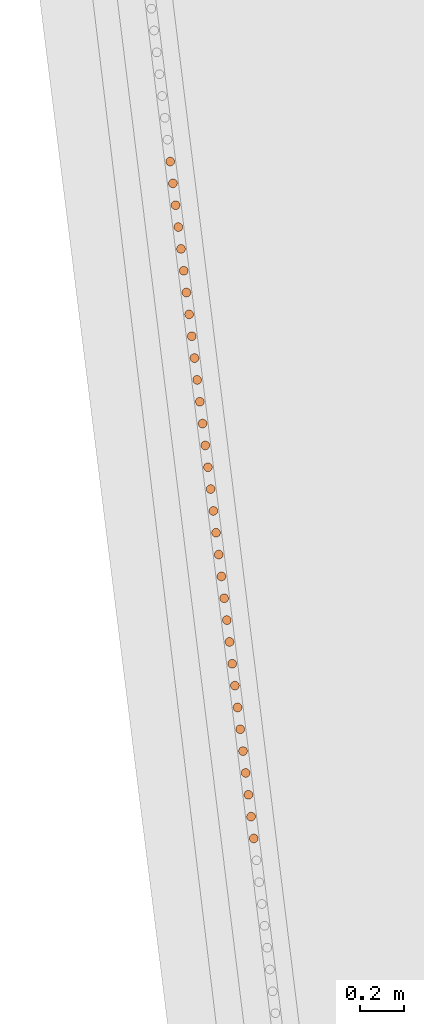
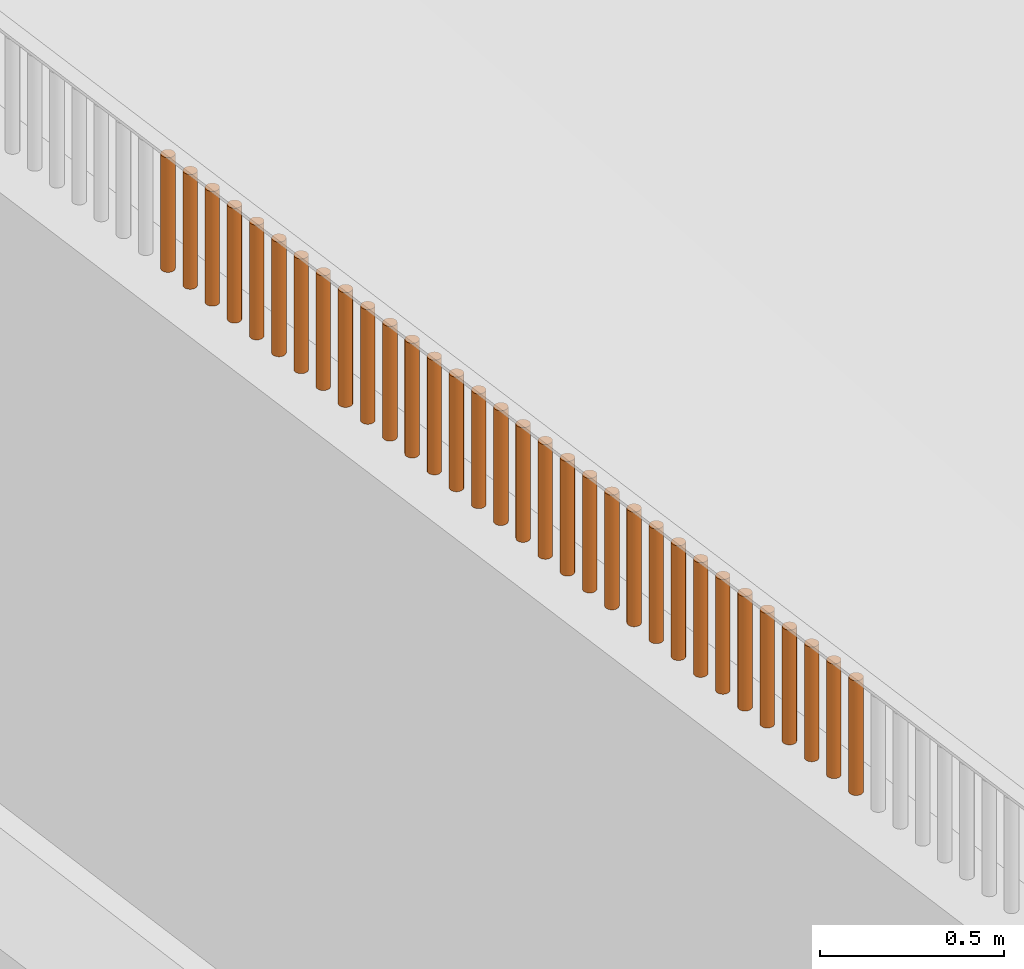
# One storey, part 230 of 1809: 32 proxies, 1 element without a shape of its own.
"""IFC2X3 building model written with IfcOpenShell, lengths in millimetres."""

from ifc_helpers import new_model, entity, si_unit, converted_unit, derived_unit, money_unit, direction, frame, origin_with_axes, place, context, subcontext, project, spatial, faceted_brep, source, transform, mapped, material, type_object, element, aggregate, save


model = new_model("IFC2X3")

# Units and contexts
model_context = context("Model", 3, precision=0.01, world=origin_with_axes(), true_north=direction((0.0, 1.0)))
body_context = subcontext(model_context, "Body", "Model", "MODEL_VIEW")
ifc_project = project(units=[si_unit("LENGTHUNIT", "METRE", prefix="MILLI"), si_unit("AREAUNIT", "SQUARE_METRE"), si_unit("VOLUMEUNIT", "CUBIC_METRE"), converted_unit("PLANEANGLEUNIT", "DEGREE", entity("IfcPlaneAngleMeasure", 0.0174532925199), si_unit("PLANEANGLEUNIT", "RADIAN"), dimensions=[0, 0, 0, 0, 0, 0, 0]), si_unit("SOLIDANGLEUNIT", "STERADIAN"), money_unit("EUR"), converted_unit("TIMEUNIT", "Year", entity("IfcTimeMeasure", 31556926.0), si_unit("TIMEUNIT", "SECOND"), dimensions=[0, 0, 1, 0, 0, 0, 0]), si_unit("MASSUNIT", "GRAM", prefix="KILO"), si_unit("THERMODYNAMICTEMPERATUREUNIT", "DEGREE_CELSIUS"), si_unit("LUMINOUSINTENSITYUNIT", "LUMEN"), si_unit("ENERGYUNIT", "JOULE", prefix="MEGA"), derived_unit("THERMALCONDUCTANCEUNIT", [(si_unit("POWERUNIT", "WATT"), 1), (si_unit("LENGTHUNIT", "METRE"), -1), (si_unit("THERMODYNAMICTEMPERATUREUNIT", "KELVIN"), -1)]), derived_unit("SPECIFICHEATCAPACITYUNIT", [(si_unit("ENERGYUNIT", "JOULE"), 1), (si_unit("MASSUNIT", "GRAM", prefix="KILO"), -1), (si_unit("THERMODYNAMICTEMPERATUREUNIT", "KELVIN"), -1)]), derived_unit("MASSDENSITYUNIT", [(si_unit("MASSUNIT", "GRAM", prefix="KILO"), 1), (si_unit("VOLUMEUNIT", "CUBIC_METRE"), -1)])], contexts=[model_context])

# Site, building, storey
site_placement = place(None, origin_with_axes())
site = spatial("IfcSite", under=ifc_project, at=site_placement, Name="Politse- ja Piirivalveameti ning Päästeameti ühishoone", CompositionType="ELEMENT")
building_placement = place(site_placement, origin_with_axes())
building = spatial("IfcBuilding", under=site, at=building_placement, Name="Politse- ja Piirivalveameti ning Päästeameti ühishoone", CompositionType="ELEMENT")
storey_placement = place(building_placement, origin_with_axes())
storey = spatial("IfcBuildingStorey", under=building, at=storey_placement, Name="Esimene korrus", CompositionType="ELEMENT", Elevation=0.0)

# Proxies
building_element_proxy_type_1 = type_object("IfcBuildingElementProxyType", Name="Railing Type", PredefinedType="NOTDEFINED")
proxy_1_placement = place(storey_placement, frame((-18956.5522504, -53688.4757966, 2100.0), z_axis=(0.0, 0.0, 1.0), x_axis=(1.0, 0.0, 0.0)))
proxy_1 = element("IfcBuildingElementProxy", 1, at=proxy_1_placement, inside=storey, type_object=building_element_proxy_type_1, Name="PIIRDEAED")
ifc_material = material(Name="ET-06_Teras - Konstruktsioon")
building_element_proxy_type_2 = type_object("IfcBuildingElementProxyType", Name="IfcBuildingElementProxy", PredefinedType="NOTDEFINED")
shared_shape_1 = source(origin_with_axes(), body_context, "Body", "Brep", [
    faceted_brep([(0.0, -20.0, 0.0), (3.47296355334, -19.6961550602, 0.0), (3.47296355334, -19.6961550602, 380.000012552), (0.0, -20.0, 380.000012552), (-3.47296355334, -19.6961550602, 0.0), (-6.84040286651, -18.7938524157, 0.0), (-10.0, -17.3205080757, 0.0), (-12.8557521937, -15.3208888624, 0.0), (-15.3208888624, -12.8557521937, 0.0), (-17.3205080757, -10.0, 0.0), (-18.7938524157, -6.84040286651, 0.0), (-19.6961550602, -3.47296355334, 0.0), (-20.0, 0.0, 0.0), (-19.6961550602, 3.47296355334, 0.0), (-18.7938524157, 6.84040286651, 0.0), (-17.3205080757, 10.0, 0.0), (-15.3208888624, 12.8557521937, 0.0), (-12.8557521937, 15.3208888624, 0.0), (-10.0, 17.3205080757, 0.0), (-6.84040286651, 18.7938524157, 0.0), (-3.47296355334, 19.6961550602, 0.0), (0.0, 20.0, 0.0), (3.47296355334, 19.6961550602, 0.0), (6.84040286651, 18.7938524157, 0.0), (10.0, 17.3205080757, 0.0), (12.8557521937, 15.3208888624, 0.0), (15.3208888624, 12.8557521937, 0.0), (17.3205080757, 10.0, 0.0), (18.7938524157, 6.84040286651, 0.0), (19.6961550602, 3.47296355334, 0.0), (20.0, 0.0, 0.0), (19.6961550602, -3.47296355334, 0.0), (18.7938524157, -6.84040286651, 0.0), (17.3205080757, -10.0, 0.0), (15.3208888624, -12.8557521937, 0.0), (12.8557521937, -15.3208888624, 0.0), (10.0, -17.3205080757, 0.0), (6.84040286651, -18.7938524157, 0.0), (6.84040286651, -18.7938524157, 380.000012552), (10.0, -17.3205080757, 380.000012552), (12.8557521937, -15.3208888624, 380.000012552), (15.3208888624, -12.8557521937, 380.000012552), (17.3205080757, -10.0, 380.000012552), (18.7938524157, -6.84040286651, 380.000012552), (19.6961550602, -3.47296355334, 380.000012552), (20.0, 0.0, 380.000012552), (19.6961550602, 3.47296355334, 380.000012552), (18.7938524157, 6.84040286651, 380.000012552), (17.3205080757, 10.0, 380.000012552), (15.3208888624, 12.8557521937, 380.000012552), (12.8557521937, 15.3208888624, 380.000012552), (10.0, 17.3205080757, 380.000012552), (6.84040286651, 18.7938524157, 380.000012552), (3.47296355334, 19.6961550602, 380.000012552), (0.0, 20.0, 380.000012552), (-3.47296355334, 19.6961550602, 380.000012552), (-6.84040286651, 18.7938524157, 380.000012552), (-10.0, 17.3205080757, 380.000012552), (-12.8557521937, 15.3208888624, 380.000012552), (-15.3208888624, 12.8557521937, 380.000012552), (-17.3205080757, 10.0, 380.000012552), (-18.7938524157, 6.84040286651, 380.000012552), (-19.6961550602, 3.47296355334, 380.000012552), (-20.0, 0.0, 380.000012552), (-19.6961550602, -3.47296355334, 380.000012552), (-18.7938524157, -6.84040286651, 380.000012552), (-17.3205080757, -10.0, 380.000012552), (-15.3208888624, -12.8557521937, 380.000012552), (-12.8557521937, -15.3208888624, 380.000012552), (-10.0, -17.3205080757, 380.000012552), (-6.84040286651, -18.7938524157, 380.000012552), (-3.47296355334, -19.6961550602, 380.000012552)], [[[0, 1, 2, 3]], [[0, 4, 5, 6, 7, 8, 9, 10, 11, 12, 13, 14, 15, 16, 17, 18, 19, 20, 21, 22, 23, 24, 25, 26, 27, 28, 29, 30, 31, 32, 33, 34, 35, 36, 37, 1]], [[1, 37, 38, 2]], [[3, 2, 38, 39, 40, 41, 42, 43, 44, 45, 46, 47, 48, 49, 50, 51, 52, 53, 54, 55, 56, 57, 58, 59, 60, 61, 62, 63, 64, 65, 66, 67, 68, 69, 70, 71]], [[4, 0, 3, 71]], [[5, 4, 71, 70]], [[6, 5, 70, 69]], [[7, 6, 69, 68]], [[8, 7, 68, 67]], [[9, 8, 67, 66]], [[10, 9, 66, 65]], [[11, 10, 65, 64]], [[12, 11, 64, 63]], [[13, 12, 63, 62]], [[14, 13, 62, 61]], [[15, 14, 61, 60]], [[16, 15, 60, 59]], [[17, 16, 59, 58]], [[18, 17, 58, 57]], [[19, 18, 57, 56]], [[20, 19, 56, 55]], [[21, 20, 55, 54]], [[22, 21, 54, 53]], [[23, 22, 53, 52]], [[24, 23, 52, 51]], [[25, 24, 51, 50]], [[26, 25, 50, 49]], [[27, 26, 49, 48]], [[28, 27, 48, 47]], [[29, 28, 47, 46]], [[30, 29, 46, 45]], [[31, 30, 45, 44]], [[32, 31, 44, 43]], [[33, 32, 43, 42]], [[34, 33, 42, 41]], [[35, 34, 41, 40]], [[36, 35, 40, 39]], [[37, 36, 39, 38]]]),
])
proxy_2_placement = place(proxy_1_placement, frame((-6437.33398772, 51318.2087235, -1.25517001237e-05), z_axis=(0.0, 0.0, 1.0), x_axis=(1.0, 0.0, 0.0)))
proxy_2 = element("IfcBuildingElementProxy", 2, at=proxy_2_placement, type_object=building_element_proxy_type_2, material=ifc_material, Name="BALUSTER - 001", context=body_context, shape_type="MappedRepresentation", body=[
    mapped(shared_shape_1, transform((0.0, 0.0, 0.0), x_axis=(0.992468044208, 0.122503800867, 0.0), y_axis=(-0.122503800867, 0.992468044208, 0.0), z_axis=(0.0, 0.0, 1.0))),
])
proxy_3_placement = place(proxy_1_placement, frame((-6547.56333193, 52211.2349063, -1.25517001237e-05), z_axis=(0.0, 0.0, 1.0), x_axis=(1.0, 0.0, 0.0)))
proxy_3 = element("IfcBuildingElementProxy", 3, at=proxy_3_placement, type_object=building_element_proxy_type_2, material=ifc_material, Name="BALUSTER - 001", context=body_context, shape_type="MappedRepresentation", body=[
    mapped(shared_shape_1, transform((0.0, 0.0, 0.0), x_axis=(0.992468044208, 0.122503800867, 0.0), y_axis=(-0.122503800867, 0.992468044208, 0.0), z_axis=(0.0, 0.0, 1.0))),
])
proxy_4_placement = place(proxy_1_placement, frame((-6572.05874176, 52409.6851692, -1.25517001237e-05), z_axis=(0.0, 0.0, 1.0), x_axis=(1.0, 0.0, 0.0)))
proxy_4 = element("IfcBuildingElementProxy", 4, at=proxy_4_placement, type_object=building_element_proxy_type_2, material=ifc_material, Name="BALUSTER - 001", context=body_context, shape_type="MappedRepresentation", body=[
    mapped(shared_shape_1, transform((0.0, 0.0, 0.0), x_axis=(0.992468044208, 0.122503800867, 0.0), y_axis=(-0.122503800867, 0.992468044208, 0.0), z_axis=(0.0, 0.0, 1.0))),
])
proxy_5_placement = place(proxy_1_placement, frame((-6584.30644667, 52508.9103006, -1.25517001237e-05), z_axis=(0.0, 0.0, 1.0), x_axis=(1.0, 0.0, 0.0)))
proxy_5 = element("IfcBuildingElementProxy", 5, at=proxy_5_placement, type_object=building_element_proxy_type_2, material=ifc_material, Name="BALUSTER - 001", context=body_context, shape_type="MappedRepresentation", body=[
    mapped(shared_shape_1, transform((0.0, 0.0, 0.0), x_axis=(0.992468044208, 0.122503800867, 0.0), y_axis=(-0.122503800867, 0.992468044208, 0.0), z_axis=(0.0, 0.0, 1.0))),
])
proxy_6_placement = place(proxy_1_placement, frame((-6596.55415159, 52608.135432, -1.25517001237e-05), z_axis=(0.0, 0.0, 1.0), x_axis=(1.0, 0.0, 0.0)))
proxy_6 = element("IfcBuildingElementProxy", 6, at=proxy_6_placement, type_object=building_element_proxy_type_2, material=ifc_material, Name="BALUSTER - 001", context=body_context, shape_type="MappedRepresentation", body=[
    mapped(shared_shape_1, transform((0.0, 0.0, 0.0), x_axis=(0.992468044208, 0.122503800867, 0.0), y_axis=(-0.122503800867, 0.992468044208, 0.0), z_axis=(0.0, 0.0, 1.0))),
])
proxy_7_placement = place(proxy_1_placement, frame((-6621.04956141, 52806.5856949, -1.25517001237e-05), z_axis=(0.0, 0.0, 1.0), x_axis=(1.0, 0.0, 0.0)))
proxy_7 = element("IfcBuildingElementProxy", 7, at=proxy_7_placement, type_object=building_element_proxy_type_2, material=ifc_material, Name="BALUSTER - 001", context=body_context, shape_type="MappedRepresentation", body=[
    mapped(shared_shape_1, transform((0.0, 0.0, 0.0), x_axis=(0.992468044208, 0.122503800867, 0.0), y_axis=(-0.122503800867, 0.992468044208, 0.0), z_axis=(0.0, 0.0, 1.0))),
])
proxy_8_placement = place(proxy_1_placement, frame((-6682.28808598, 53302.711352, -1.25517001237e-05), z_axis=(0.0, 0.0, 1.0), x_axis=(1.0, 0.0, 0.0)))
proxy_8 = element("IfcBuildingElementProxy", 8, at=proxy_8_placement, type_object=building_element_proxy_type_2, material=ifc_material, Name="BALUSTER - 001", context=body_context, shape_type="MappedRepresentation", body=[
    mapped(shared_shape_1, transform((0.0, 0.0, 0.0), x_axis=(0.992468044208, 0.122503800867, 0.0), y_axis=(-0.122503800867, 0.992468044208, 0.0), z_axis=(0.0, 0.0, 1.0))),
])
proxy_9_placement = place(proxy_1_placement, frame((-6706.7834958, 53501.1616148, -1.25517001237e-05), z_axis=(0.0, 0.0, 1.0), x_axis=(1.0, 0.0, 0.0)))
proxy_9 = element("IfcBuildingElementProxy", 9, at=proxy_9_placement, type_object=building_element_proxy_type_2, material=ifc_material, Name="BALUSTER - 001", context=body_context, shape_type="MappedRepresentation", body=[
    mapped(shared_shape_1, transform((0.0, 0.0, 0.0), x_axis=(0.992468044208, 0.122503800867, 0.0), y_axis=(-0.122503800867, 0.992468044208, 0.0), z_axis=(0.0, 0.0, 1.0))),
])
proxy_10_placement = place(proxy_1_placement, frame((-6719.03120072, 53600.3867463, -1.25517001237e-05), z_axis=(0.0, 0.0, 1.0), x_axis=(1.0, 0.0, 0.0)))
proxy_10 = element("IfcBuildingElementProxy", 10, at=proxy_10_placement, type_object=building_element_proxy_type_2, material=ifc_material, Name="BALUSTER - 001", context=body_context, shape_type="MappedRepresentation", body=[
    mapped(shared_shape_1, transform((0.0, 0.0, 0.0), x_axis=(0.992468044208, 0.122503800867, 0.0), y_axis=(-0.122503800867, 0.992468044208, 0.0), z_axis=(0.0, 0.0, 1.0))),
])
proxy_11_placement = place(proxy_1_placement, frame((-6731.27890563, 53699.6118777, -1.25517001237e-05), z_axis=(0.0, 0.0, 1.0), x_axis=(1.0, 0.0, 0.0)))
proxy_11 = element("IfcBuildingElementProxy", 11, at=proxy_11_placement, type_object=building_element_proxy_type_2, material=ifc_material, Name="BALUSTER - 001", context=body_context, shape_type="MappedRepresentation", body=[
    mapped(shared_shape_1, transform((0.0, 0.0, 0.0), x_axis=(0.992468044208, 0.122503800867, 0.0), y_axis=(-0.122503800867, 0.992468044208, 0.0), z_axis=(0.0, 0.0, 1.0))),
])
proxy_12_placement = place(proxy_1_placement, frame((-6743.52661054, 53798.8370091, -1.25517001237e-05), z_axis=(0.0, 0.0, 1.0), x_axis=(1.0, 0.0, 0.0)))
proxy_12 = element("IfcBuildingElementProxy", 12, at=proxy_12_placement, type_object=building_element_proxy_type_2, material=ifc_material, Name="BALUSTER - 001", context=body_context, shape_type="MappedRepresentation", body=[
    mapped(shared_shape_1, transform((0.0, 0.0, 0.0), x_axis=(0.992468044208, 0.122503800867, 0.0), y_axis=(-0.122503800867, 0.992468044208, 0.0), z_axis=(0.0, 0.0, 1.0))),
])
proxy_13_placement = place(proxy_1_placement, frame((-6755.77431546, 53898.0621405, -1.25517001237e-05), z_axis=(0.0, 0.0, 1.0), x_axis=(1.0, 0.0, 0.0)))
proxy_13 = element("IfcBuildingElementProxy", 13, at=proxy_13_placement, type_object=building_element_proxy_type_2, material=ifc_material, Name="BALUSTER - 001", context=body_context, shape_type="MappedRepresentation", body=[
    mapped(shared_shape_1, transform((0.0, 0.0, 0.0), x_axis=(0.992468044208, 0.122503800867, 0.0), y_axis=(-0.122503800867, 0.992468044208, 0.0), z_axis=(0.0, 0.0, 1.0))),
])
proxy_14_placement = place(proxy_1_placement, frame((-6780.26972528, 54096.5124034, -1.25517001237e-05), z_axis=(0.0, 0.0, 1.0), x_axis=(1.0, 0.0, 0.0)))
proxy_14 = element("IfcBuildingElementProxy", 14, at=proxy_14_placement, type_object=building_element_proxy_type_2, material=ifc_material, Name="BALUSTER - 001", context=body_context, shape_type="MappedRepresentation", body=[
    mapped(shared_shape_1, transform((0.0, 0.0, 0.0), x_axis=(0.992468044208, 0.122503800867, 0.0), y_axis=(-0.122503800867, 0.992468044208, 0.0), z_axis=(0.0, 0.0, 1.0))),
])
shared_shape_2 = source(origin_with_axes(), body_context, "Body", "Brep", [
    faceted_brep([(0.0, -20.0, 0.0), (3.47296355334, -19.6961550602, 0.0), (3.47296355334, -19.6961550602, 380.000012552), (0.0, -20.0, 380.000012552), (-3.47296355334, -19.6961550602, 0.0), (-6.84040286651, -18.7938524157, 0.0), (-10.0, -17.3205080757, 0.0), (-12.8557521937, -15.3208888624, 0.0), (-15.3208888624, -12.8557521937, 0.0), (-17.3205080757, -10.0, 0.0), (-18.7938524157, -6.84040286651, 0.0), (-19.6961550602, -3.47296355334, 0.0), (-20.0, 0.0, 0.0), (-19.6961550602, 3.47296355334, 0.0), (-18.7938524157, 6.84040286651, 0.0), (-17.3205080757, 10.0, 0.0), (-15.3208888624, 12.8557521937, 0.0), (-12.8557521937, 15.3208888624, 0.0), (-10.0, 17.3205080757, 0.0), (-6.84040286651, 18.7938524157, 0.0), (-3.47296355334, 19.6961550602, 0.0), (0.0, 20.0, 0.0), (3.47296355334, 19.6961550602, 0.0), (6.84040286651, 18.7938524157, 0.0), (10.0, 17.3205080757, 0.0), (12.8557521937, 15.3208888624, 0.0), (15.3208888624, 12.8557521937, 0.0), (17.3205080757, 10.0, 0.0), (18.7938524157, 6.84040286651, 0.0), (19.6961550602, 3.47296355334, 0.0), (20.0, 0.0, 0.0), (19.6961550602, -3.47296355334, 0.0), (18.7938524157, -6.84040286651, 0.0), (17.3205080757, -10.0, 0.0), (15.3208888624, -12.8557521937, 0.0), (12.8557521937, -15.3208888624, 0.0), (10.0, -17.3205080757, 0.0), (6.84040286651, -18.7938524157, 0.0), (6.84040286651, -18.7938524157, 380.000012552), (10.0, -17.3205080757, 380.000012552), (12.8557521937, -15.3208888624, 380.000012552), (15.3208888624, -12.8557521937, 380.000012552), (17.3205080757, -10.0, 380.000012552), (18.7938524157, -6.84040286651, 380.000012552), (19.6961550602, -3.47296355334, 380.000012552), (20.0, 0.0, 380.000012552), (19.6961550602, 3.47296355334, 380.000012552), (18.7938524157, 6.84040286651, 380.000012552), (17.3205080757, 10.0, 380.000012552), (15.3208888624, 12.8557521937, 380.000012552), (12.8557521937, 15.3208888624, 380.000012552), (10.0, 17.3205080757, 380.000012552), (6.84040286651, 18.7938524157, 380.000012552), (3.47296355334, 19.6961550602, 380.000012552), (0.0, 20.0, 380.000012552), (-3.47296355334, 19.6961550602, 380.000012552), (-6.84040286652, 18.7938524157, 380.000012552), (-10.0, 17.3205080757, 380.000012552), (-12.8557521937, 15.3208888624, 380.000012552), (-15.3208888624, 12.8557521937, 380.000012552), (-17.3205080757, 10.0, 380.000012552), (-18.7938524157, 6.84040286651, 380.000012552), (-19.6961550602, 3.47296355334, 380.000012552), (-20.0, 0.0, 380.000012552), (-19.6961550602, -3.47296355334, 380.000012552), (-18.7938524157, -6.84040286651, 380.000012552), (-17.3205080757, -10.0, 380.000012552), (-15.3208888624, -12.8557521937, 380.000012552), (-12.8557521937, -15.3208888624, 380.000012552), (-10.0, -17.3205080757, 380.000012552), (-6.84040286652, -18.7938524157, 380.000012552), (-3.47296355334, -19.6961550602, 380.000012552)], [[[0, 1, 2, 3]], [[0, 4, 5, 6, 7, 8, 9, 10, 11, 12, 13, 14, 15, 16, 17, 18, 19, 20, 21, 22, 23, 24, 25, 26, 27, 28, 29, 30, 31, 32, 33, 34, 35, 36, 37, 1]], [[1, 37, 38, 2]], [[3, 2, 38, 39, 40, 41, 42, 43, 44, 45, 46, 47, 48, 49, 50, 51, 52, 53, 54, 55, 56, 57, 58, 59, 60, 61, 62, 63, 64, 65, 66, 67, 68, 69, 70, 71]], [[4, 0, 3, 71]], [[5, 4, 71, 70]], [[6, 5, 70, 69]], [[7, 6, 69, 68]], [[8, 7, 68, 67]], [[9, 8, 67, 66]], [[10, 9, 66, 65]], [[11, 10, 65, 64]], [[12, 11, 64, 63]], [[13, 12, 63, 62]], [[14, 13, 62, 61]], [[15, 14, 61, 60]], [[16, 15, 60, 59]], [[17, 16, 59, 58]], [[18, 17, 58, 57]], [[19, 18, 57, 56]], [[20, 19, 56, 55]], [[21, 20, 55, 54]], [[22, 21, 54, 53]], [[23, 22, 53, 52]], [[24, 23, 52, 51]], [[25, 24, 51, 50]], [[26, 25, 50, 49]], [[27, 26, 49, 48]], [[28, 27, 48, 47]], [[29, 28, 47, 46]], [[30, 29, 46, 45]], [[31, 30, 45, 44]], [[32, 31, 44, 43]], [[33, 32, 43, 42]], [[34, 33, 42, 41]], [[35, 34, 41, 40]], [[36, 35, 40, 39]], [[37, 36, 39, 38]]]),
])
proxy_15_placement = place(proxy_1_placement, frame((-6645.54497124, 53005.0359577, -1.25517001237e-05), z_axis=(0.0, 0.0, 1.0), x_axis=(1.0, 0.0, 0.0)))
proxy_15 = element("IfcBuildingElementProxy", 15, at=proxy_15_placement, type_object=building_element_proxy_type_2, material=ifc_material, Name="BALUSTER - 001", context=body_context, shape_type="MappedRepresentation", body=[
    mapped(shared_shape_2, transform((0.0, 0.0, 0.0), x_axis=(0.992468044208, 0.122503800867, 0.0), y_axis=(-0.122503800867, 0.992468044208, 0.0), z_axis=(0.0, 0.0, 1.0))),
])
proxy_16_placement = place(proxy_1_placement, frame((-6694.53579089, 53401.9364834, -1.25517001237e-05), z_axis=(0.0, 0.0, 1.0), x_axis=(1.0, 0.0, 0.0)))
proxy_16 = element("IfcBuildingElementProxy", 16, at=proxy_16_placement, type_object=building_element_proxy_type_2, material=ifc_material, Name="BALUSTER - 001", context=body_context, shape_type="MappedRepresentation", body=[
    mapped(shared_shape_2, transform((0.0, 0.0, 0.0), x_axis=(0.992468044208, 0.122503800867, 0.0), y_axis=(-0.122503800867, 0.992468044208, 0.0), z_axis=(0.0, 0.0, 1.0))),
])
proxy_17_placement = place(proxy_1_placement, frame((-6768.02202037, 53997.287272, -1.25517001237e-05), z_axis=(0.0, 0.0, 1.0), x_axis=(1.0, 0.0, 0.0)))
proxy_17 = element("IfcBuildingElementProxy", 17, at=proxy_17_placement, type_object=building_element_proxy_type_2, material=ifc_material, Name="BALUSTER - 001", context=body_context, shape_type="MappedRepresentation", body=[
    mapped(shared_shape_2, transform((0.0, 0.0, 0.0), x_axis=(0.992468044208, 0.122503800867, 0.0), y_axis=(-0.122503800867, 0.992468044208, 0.0), z_axis=(0.0, 0.0, 1.0))),
])
shared_shape_3 = source(origin_with_axes(), body_context, "Body", "Brep", [
    faceted_brep([(0.0, -20.0, 0.0), (3.47296355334, -19.6961550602, 0.0), (3.47296355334, -19.6961550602, 380.000012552), (0.0, -20.0, 380.000012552), (-3.47296355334, -19.6961550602, 0.0), (-6.84040286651, -18.7938524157, 0.0), (-10.0, -17.3205080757, 0.0), (-12.8557521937, -15.3208888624, 0.0), (-15.3208888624, -12.8557521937, 0.0), (-17.3205080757, -10.0, 0.0), (-18.7938524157, -6.84040286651, 0.0), (-19.6961550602, -3.47296355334, 0.0), (-20.0, 0.0, 0.0), (-19.6961550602, 3.47296355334, 0.0), (-18.7938524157, 6.84040286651, 0.0), (-17.3205080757, 10.0, 0.0), (-15.3208888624, 12.8557521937, 0.0), (-12.8557521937, 15.3208888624, 0.0), (-10.0, 17.3205080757, 0.0), (-6.84040286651, 18.7938524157, 0.0), (-3.47296355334, 19.6961550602, 0.0), (0.0, 20.0, 0.0), (3.47296355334, 19.6961550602, 0.0), (6.84040286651, 18.7938524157, 0.0), (10.0, 17.3205080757, 0.0), (12.8557521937, 15.3208888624, 0.0), (15.3208888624, 12.8557521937, 0.0), (17.3205080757, 10.0, 0.0), (18.7938524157, 6.84040286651, 0.0), (19.6961550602, 3.47296355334, 0.0), (20.0, 0.0, 0.0), (19.6961550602, -3.47296355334, 0.0), (18.7938524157, -6.84040286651, 0.0), (17.3205080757, -10.0, 0.0), (15.3208888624, -12.8557521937, 0.0), (12.8557521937, -15.3208888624, 0.0), (10.0, -17.3205080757, 0.0), (6.84040286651, -18.7938524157, 0.0), (6.84040286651, -18.7938524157, 380.000012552), (10.0, -17.3205080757, 380.000012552), (12.8557521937, -15.3208888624, 380.000012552), (15.3208888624, -12.8557521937, 380.000012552), (17.3205080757, -10.0, 380.000012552), (18.7938524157, -6.84040286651, 380.000012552), (19.6961550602, -3.47296355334, 380.000012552), (20.0, 0.0, 380.000012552), (19.6961550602, 3.47296355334, 380.000012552), (18.7938524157, 6.84040286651, 380.000012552), (17.3205080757, 10.0, 380.000012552), (15.3208888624, 12.8557521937, 380.000012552), (12.8557521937, 15.3208888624, 380.000012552), (10.0, 17.3205080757, 380.000012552), (6.84040286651, 18.7938524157, 380.000012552), (3.47296355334, 19.6961550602, 380.000012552), (0.0, 20.0, 380.000012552), (-3.47296355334, 19.6961550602, 380.000012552), (-6.84040286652, 18.7938524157, 380.000012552), (-10.0, 17.3205080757, 380.000012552), (-12.8557521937, 15.3208888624, 380.000012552), (-15.3208888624, 12.8557521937, 380.000012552), (-17.3205080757, 10.0, 380.000012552), (-18.7938524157, 6.84040286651, 380.000012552), (-19.6961550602, 3.47296355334, 380.000012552), (-20.0, 0.0, 380.000012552), (-19.6961550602, -3.47296355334, 380.000012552), (-18.7938524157, -6.84040286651, 380.000012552), (-17.3205080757, -10.0, 380.000012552), (-15.3208888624, -12.8557521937, 380.000012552), (-12.8557521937, -15.3208888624, 380.000012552), (-10.0, -17.3205080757, 380.000012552), (-6.84040286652, -18.7938524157, 380.000012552), (-3.47296355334, -19.6961550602, 380.000012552)], [[[0, 1, 2, 3]], [[0, 4, 5, 6, 7, 8, 9, 10, 11, 12, 13, 14, 15, 16, 17, 18, 19, 20, 21, 22, 23, 24, 25, 26, 27, 28, 29, 30, 31, 32, 33, 34, 35, 36, 37, 1]], [[1, 37, 38, 2]], [[3, 2, 38, 39, 40, 41, 42, 43, 44, 45, 46, 47, 48, 49, 50, 51, 52, 53, 54, 55, 56, 57, 58, 59, 60, 61, 62, 63, 64, 65, 66, 67, 68, 69, 70, 71]], [[4, 0, 3, 71]], [[5, 4, 71, 70]], [[6, 5, 70, 69]], [[7, 6, 69, 68]], [[8, 7, 68, 67]], [[9, 8, 67, 66]], [[10, 9, 66, 65]], [[11, 10, 65, 64]], [[12, 11, 64, 63]], [[13, 12, 63, 62]], [[14, 13, 62, 61]], [[15, 14, 61, 60]], [[16, 15, 60, 59]], [[17, 16, 59, 58]], [[18, 17, 58, 57]], [[19, 18, 57, 56]], [[20, 19, 56, 55]], [[21, 20, 55, 54]], [[22, 21, 54, 53]], [[23, 22, 53, 52]], [[24, 23, 52, 51]], [[25, 24, 51, 50]], [[26, 25, 50, 49]], [[27, 26, 49, 48]], [[28, 27, 48, 47]], [[29, 28, 47, 46]], [[30, 29, 46, 45]], [[31, 30, 45, 44]], [[32, 31, 44, 43]], [[33, 32, 43, 42]], [[34, 33, 42, 41]], [[35, 34, 41, 40]], [[36, 35, 40, 39]], [[37, 36, 39, 38]]]),
])
proxy_18_placement = place(proxy_1_placement, frame((-6449.58169263, 51417.4338549, -1.25517001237e-05), z_axis=(0.0, 0.0, 1.0), x_axis=(1.0, 0.0, 0.0)))
proxy_18 = element("IfcBuildingElementProxy", 18, at=proxy_18_placement, type_object=building_element_proxy_type_2, material=ifc_material, Name="BALUSTER - 001", context=body_context, shape_type="MappedRepresentation", body=[
    mapped(shared_shape_3, transform((0.0, 0.0, 0.0), x_axis=(0.992468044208, 0.122503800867, 0.0), y_axis=(-0.122503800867, 0.992468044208, 0.0), z_axis=(0.0, 0.0, 1.0))),
])
proxy_19_placement = place(proxy_1_placement, frame((-6461.82939754, 51516.6589863, -1.25517001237e-05), z_axis=(0.0, 0.0, 1.0), x_axis=(1.0, 0.0, 0.0)))
proxy_19 = element("IfcBuildingElementProxy", 19, at=proxy_19_placement, type_object=building_element_proxy_type_2, material=ifc_material, Name="BALUSTER - 001", context=body_context, shape_type="MappedRepresentation", body=[
    mapped(shared_shape_3, transform((0.0, 0.0, 0.0), x_axis=(0.992468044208, 0.122503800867, 0.0), y_axis=(-0.122503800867, 0.992468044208, 0.0), z_axis=(0.0, 0.0, 1.0))),
])
proxy_20_placement = place(proxy_1_placement, frame((-6474.07710246, 51615.8841178, -1.25517001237e-05), z_axis=(0.0, 0.0, 1.0), x_axis=(1.0, 0.0, 0.0)))
proxy_20 = element("IfcBuildingElementProxy", 20, at=proxy_20_placement, type_object=building_element_proxy_type_2, material=ifc_material, Name="BALUSTER - 001", context=body_context, shape_type="MappedRepresentation", body=[
    mapped(shared_shape_3, transform((0.0, 0.0, 0.0), x_axis=(0.992468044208, 0.122503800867, 0.0), y_axis=(-0.122503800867, 0.992468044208, 0.0), z_axis=(0.0, 0.0, 1.0))),
])
proxy_21_placement = place(proxy_1_placement, frame((-6486.32480737, 51715.1092492, -1.25517001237e-05), z_axis=(0.0, 0.0, 1.0), x_axis=(1.0, 0.0, 0.0)))
proxy_21 = element("IfcBuildingElementProxy", 21, at=proxy_21_placement, type_object=building_element_proxy_type_2, material=ifc_material, Name="BALUSTER - 001", context=body_context, shape_type="MappedRepresentation", body=[
    mapped(shared_shape_3, transform((0.0, 0.0, 0.0), x_axis=(0.992468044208, 0.122503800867, 0.0), y_axis=(-0.122503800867, 0.992468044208, 0.0), z_axis=(0.0, 0.0, 1.0))),
])
proxy_22_placement = place(proxy_1_placement, frame((-6498.57251228, 51814.3343806, -1.25517001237e-05), z_axis=(0.0, 0.0, 1.0), x_axis=(1.0, 0.0, 0.0)))
proxy_22 = element("IfcBuildingElementProxy", 22, at=proxy_22_placement, type_object=building_element_proxy_type_2, material=ifc_material, Name="BALUSTER - 001", context=body_context, shape_type="MappedRepresentation", body=[
    mapped(shared_shape_3, transform((0.0, 0.0, 0.0), x_axis=(0.992468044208, 0.122503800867, 0.0), y_axis=(-0.122503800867, 0.992468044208, 0.0), z_axis=(0.0, 0.0, 1.0))),
])
proxy_23_placement = place(proxy_1_placement, frame((-6510.82021719, 51913.559512, -1.25517001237e-05), z_axis=(0.0, 0.0, 1.0), x_axis=(1.0, 0.0, 0.0)))
proxy_23 = element("IfcBuildingElementProxy", 23, at=proxy_23_placement, type_object=building_element_proxy_type_2, material=ifc_material, Name="BALUSTER - 001", context=body_context, shape_type="MappedRepresentation", body=[
    mapped(shared_shape_3, transform((0.0, 0.0, 0.0), x_axis=(0.992468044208, 0.122503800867, 0.0), y_axis=(-0.122503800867, 0.992468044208, 0.0), z_axis=(0.0, 0.0, 1.0))),
])
proxy_24_placement = place(proxy_1_placement, frame((-6523.06792211, 52012.7846435, -1.25517001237e-05), z_axis=(0.0, 0.0, 1.0), x_axis=(1.0, 0.0, 0.0)))
proxy_24 = element("IfcBuildingElementProxy", 24, at=proxy_24_placement, type_object=building_element_proxy_type_2, material=ifc_material, Name="BALUSTER - 001", context=body_context, shape_type="MappedRepresentation", body=[
    mapped(shared_shape_3, transform((0.0, 0.0, 0.0), x_axis=(0.992468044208, 0.122503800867, 0.0), y_axis=(-0.122503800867, 0.992468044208, 0.0), z_axis=(0.0, 0.0, 1.0))),
])
proxy_25_placement = place(proxy_1_placement, frame((-6535.31562702, 52112.0097749, -1.25517001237e-05), z_axis=(0.0, 0.0, 1.0), x_axis=(1.0, 0.0, 0.0)))
proxy_25 = element("IfcBuildingElementProxy", 25, at=proxy_25_placement, type_object=building_element_proxy_type_2, material=ifc_material, Name="BALUSTER - 001", context=body_context, shape_type="MappedRepresentation", body=[
    mapped(shared_shape_3, transform((0.0, 0.0, 0.0), x_axis=(0.992468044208, 0.122503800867, 0.0), y_axis=(-0.122503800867, 0.992468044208, 0.0), z_axis=(0.0, 0.0, 1.0))),
])
proxy_26_placement = place(proxy_1_placement, frame((-6559.81103685, 52310.4600377, -1.25517001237e-05), z_axis=(0.0, 0.0, 1.0), x_axis=(1.0, 0.0, 0.0)))
proxy_26 = element("IfcBuildingElementProxy", 26, at=proxy_26_placement, type_object=building_element_proxy_type_2, material=ifc_material, Name="BALUSTER - 001", context=body_context, shape_type="MappedRepresentation", body=[
    mapped(shared_shape_3, transform((0.0, 0.0, 0.0), x_axis=(0.992468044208, 0.122503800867, 0.0), y_axis=(-0.122503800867, 0.992468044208, 0.0), z_axis=(0.0, 0.0, 1.0))),
])
proxy_27_placement = place(proxy_1_placement, frame((-6608.8018565, 52707.3605634, -1.25517001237e-05), z_axis=(0.0, 0.0, 1.0), x_axis=(1.0, 0.0, 0.0)))
proxy_27 = element("IfcBuildingElementProxy", 27, at=proxy_27_placement, type_object=building_element_proxy_type_2, material=ifc_material, Name="BALUSTER - 001", context=body_context, shape_type="MappedRepresentation", body=[
    mapped(shared_shape_3, transform((0.0, 0.0, 0.0), x_axis=(0.992468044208, 0.122503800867, 0.0), y_axis=(-0.122503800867, 0.992468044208, 0.0), z_axis=(0.0, 0.0, 1.0))),
])
proxy_28_placement = place(proxy_1_placement, frame((-6633.29726633, 52905.8108263, -1.25517001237e-05), z_axis=(0.0, 0.0, 1.0), x_axis=(1.0, 0.0, 0.0)))
proxy_28 = element("IfcBuildingElementProxy", 28, at=proxy_28_placement, type_object=building_element_proxy_type_2, material=ifc_material, Name="BALUSTER - 001", context=body_context, shape_type="MappedRepresentation", body=[
    mapped(shared_shape_3, transform((0.0, 0.0, 0.0), x_axis=(0.992468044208, 0.122503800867, 0.0), y_axis=(-0.122503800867, 0.992468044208, 0.0), z_axis=(0.0, 0.0, 1.0))),
])
proxy_29_placement = place(proxy_1_placement, frame((-6657.79267615, 53104.2610891, -1.25517001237e-05), z_axis=(0.0, 0.0, 1.0), x_axis=(1.0, 0.0, 0.0)))
proxy_29 = element("IfcBuildingElementProxy", 29, at=proxy_29_placement, type_object=building_element_proxy_type_2, material=ifc_material, Name="BALUSTER - 001", context=body_context, shape_type="MappedRepresentation", body=[
    mapped(shared_shape_3, transform((0.0, 0.0, 0.0), x_axis=(0.992468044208, 0.122503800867, 0.0), y_axis=(-0.122503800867, 0.992468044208, 0.0), z_axis=(0.0, 0.0, 1.0))),
])
proxy_30_placement = place(proxy_1_placement, frame((-6670.04038107, 53203.4862206, -1.25517001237e-05), z_axis=(0.0, 0.0, 1.0), x_axis=(1.0, 0.0, 0.0)))
proxy_30 = element("IfcBuildingElementProxy", 30, at=proxy_30_placement, type_object=building_element_proxy_type_2, material=ifc_material, Name="BALUSTER - 001", context=body_context, shape_type="MappedRepresentation", body=[
    mapped(shared_shape_3, transform((0.0, 0.0, 0.0), x_axis=(0.992468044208, 0.122503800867, 0.0), y_axis=(-0.122503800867, 0.992468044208, 0.0), z_axis=(0.0, 0.0, 1.0))),
])
proxy_31_placement = place(proxy_1_placement, frame((-6792.5174302, 54195.7375348, -1.25517001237e-05), z_axis=(0.0, 0.0, 1.0), x_axis=(1.0, 0.0, 0.0)))
proxy_31 = element("IfcBuildingElementProxy", 31, at=proxy_31_placement, type_object=building_element_proxy_type_2, material=ifc_material, Name="BALUSTER - 001", context=body_context, shape_type="MappedRepresentation", body=[
    mapped(shared_shape_3, transform((0.0, 0.0, 0.0), x_axis=(0.992468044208, 0.122503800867, 0.0), y_axis=(-0.122503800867, 0.992468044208, 0.0), z_axis=(0.0, 0.0, 1.0))),
])
proxy_32_placement = place(proxy_1_placement, frame((-6804.76513511, 54294.9626662, -1.25517001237e-05), z_axis=(0.0, 0.0, 1.0), x_axis=(1.0, 0.0, 0.0)))
proxy_32 = element("IfcBuildingElementProxy", 32, at=proxy_32_placement, type_object=building_element_proxy_type_2, material=ifc_material, Name="BALUSTER - 001", context=body_context, shape_type="MappedRepresentation", body=[
    mapped(shared_shape_3, transform((0.0, 0.0, 0.0), x_axis=(0.992468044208, 0.122503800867, 0.0), y_axis=(-0.122503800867, 0.992468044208, 0.0), z_axis=(0.0, 0.0, 1.0))),
])
proxy_33_placement = place(proxy_1_placement, frame((-6817.01284002, 54394.1877977, -1.25517001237e-05), z_axis=(0.0, 0.0, 1.0), x_axis=(1.0, 0.0, 0.0)))
proxy_33 = element("IfcBuildingElementProxy", 33, at=proxy_33_placement, type_object=building_element_proxy_type_2, material=ifc_material, Name="BALUSTER - 001", context=body_context, shape_type="MappedRepresentation", body=[
    mapped(shared_shape_3, transform((0.0, 0.0, 0.0), x_axis=(0.992468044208, 0.122503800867, 0.0), y_axis=(-0.122503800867, 0.992468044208, 0.0), z_axis=(0.0, 0.0, 1.0))),
])
aggregate(proxy_1, [proxy_2, proxy_18, proxy_19, proxy_20, proxy_21, proxy_22, proxy_23, proxy_24, proxy_25, proxy_3, proxy_26, proxy_4, proxy_5, proxy_6, proxy_27, proxy_7, proxy_28, proxy_15, proxy_29, proxy_30, proxy_8, proxy_16, proxy_9, proxy_10, proxy_11, proxy_12, proxy_13, proxy_17, proxy_14, proxy_31, proxy_32, proxy_33])

save(model, "model.ifc")
